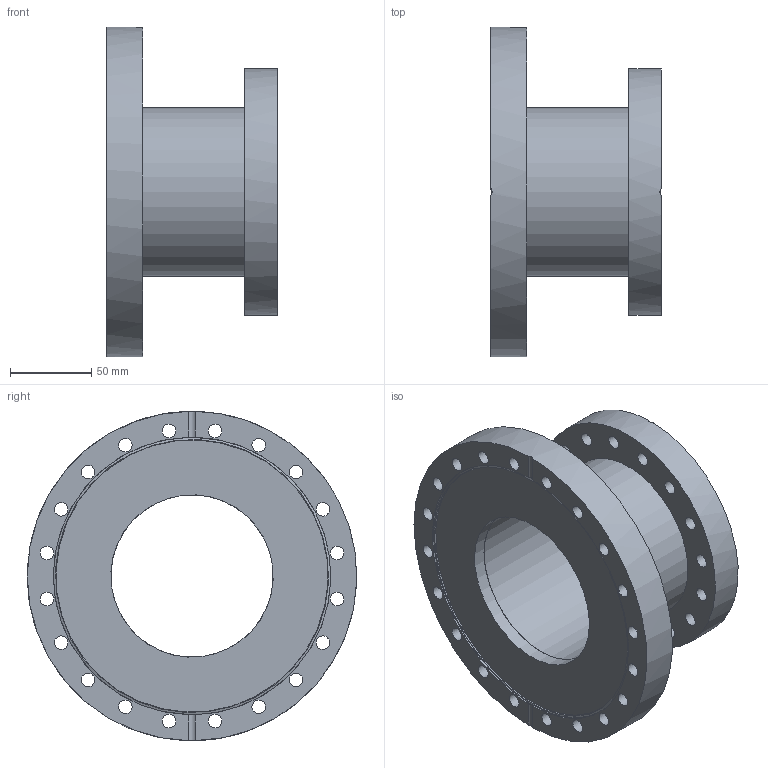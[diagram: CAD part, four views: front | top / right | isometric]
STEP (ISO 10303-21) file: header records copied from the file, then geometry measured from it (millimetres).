
FILE_DESCRIPTION( ( 'Unknown' ), '1' );
FILE_NAME( 'X:/Daten ( aktueller Bestand )/Projekte und Zeichnungen/Solid Edge/STP-Dateien/CF-Teile/7168F4.stp', 'Unknown', ( 'Unknown' ), ( 'Unknown' ), 'PSStep 14.0', 'Unknown', ' ' );
FILE_SCHEMA( ( 'AUTOMOTIVE_DESIGN { 1 0 10303 214 1 1 1 1 }' ) );
Length unit declared in the file: millimetre
Products named in the file (7): 7168F-1; 7168F-2; 7168F-3; Assem1
Assembly tree (6 placements, depth 3):
  Assem1
    7168F-1
      7168F-1
    7168F-2
      7168F-2
    7168F-3
      7168F-3
Bounding box: 105 x 202.94 x 203 mm (x, y, z)
Volume: 724668.1 mm3; surface area: 180168.5 mm2
Topology: 3 solids, 3 shells, 66 faces, 206 edges, 148 vertices
Faces by surface type: cylinder 50, plane 12, cone 4
Full cylindrical faces by diameter (mm): 8.4 x36, 100 x3, 104 x1, 104.3 x2, 120 x1, 152 x1, 171 x1, 203 x1
Entity records: 2722 total; most frequent: CARTESIAN_POINT 436, DIRECTION 360, ORIENTED_EDGE 232, EDGE_LOOP 196, AXIS2_PLACEMENT_3D 176, EDGE_CURVE 116, FACE_OUTER_BOUND 112, VERTEX_POINT 108
